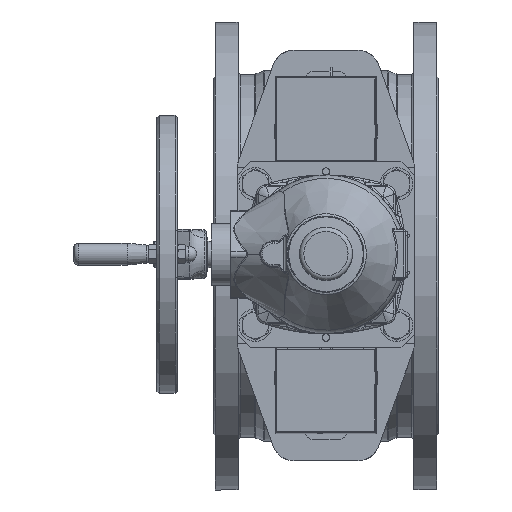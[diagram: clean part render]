
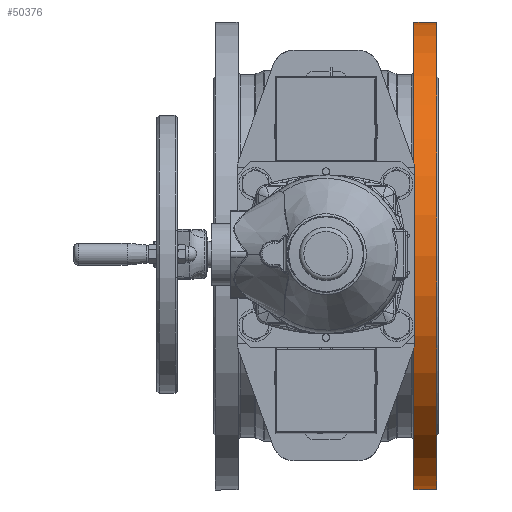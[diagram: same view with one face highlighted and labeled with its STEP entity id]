
A CAD part, top view. The second image highlights one B-rep face of the part: STEP entity #50376.
In plain terms, the highlighted cylindrical face has radius 265 mm (diameter 530 mm), a full revolution.
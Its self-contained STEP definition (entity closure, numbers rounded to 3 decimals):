
#3720=CYLINDRICAL_SURFACE('',#53899,265.);
#4870=FACE_OUTER_BOUND('',#7908,.T.);
#7908=EDGE_LOOP('',(#34884,#34885,#34886,#34887,#34888,#34889));
#11210=LINE('',#79071,#14555);
#14555=VECTOR('',#60659,265.);
#17776=CIRCLE('',#53263,265.);
#17777=CIRCLE('',#53264,265.);
#17786=CIRCLE('',#53276,265.);
#17787=CIRCLE('',#53277,265.);
#20672=VERTEX_POINT('',#73291);
#20673=VERTEX_POINT('',#73292);
#20688=VERTEX_POINT('',#73326);
#20689=VERTEX_POINT('',#73327);
#25568=EDGE_CURVE('',#20672,#20673,#17776,.T.);
#25569=EDGE_CURVE('',#20673,#20672,#17777,.T.);
#25584=EDGE_CURVE('',#20688,#20689,#17786,.T.);
#25585=EDGE_CURVE('',#20689,#20688,#17787,.T.);
#26385=EDGE_CURVE('',#20673,#20689,#11210,.T.);
#34884=ORIENTED_EDGE('',*,*,#25568,.T.);
#34885=ORIENTED_EDGE('',*,*,#26385,.T.);
#34886=ORIENTED_EDGE('',*,*,#25584,.F.);
#34887=ORIENTED_EDGE('',*,*,#25585,.F.);
#34888=ORIENTED_EDGE('',*,*,#26385,.F.);
#34889=ORIENTED_EDGE('',*,*,#25569,.T.);
#50376=ADVANCED_FACE('',(#4870),#3720,.T.);
#53263=AXIS2_PLACEMENT_3D('',#73293,#59123,#59124);
#53264=AXIS2_PLACEMENT_3D('',#73294,#59125,#59126);
#53276=AXIS2_PLACEMENT_3D('',#73328,#59155,#59156);
#53277=AXIS2_PLACEMENT_3D('',#73329,#59157,#59158);
#53899=AXIS2_PLACEMENT_3D('',#79070,#60657,#60658);
#59123=DIRECTION('center_axis',(1.,0.,0.));
#59124=DIRECTION('ref_axis',(0.,-1.,0.));
#59125=DIRECTION('center_axis',(1.,0.,0.));
#59126=DIRECTION('ref_axis',(0.,-1.,0.));
#59155=DIRECTION('center_axis',(1.,0.,0.));
#59156=DIRECTION('ref_axis',(0.,-1.,0.));
#59157=DIRECTION('center_axis',(1.,0.,0.));
#59158=DIRECTION('ref_axis',(0.,-1.,0.));
#60657=DIRECTION('center_axis',(1.,0.,0.));
#60658=DIRECTION('ref_axis',(0.,0.,
1.));
#60659=DIRECTION('',(1.,0.,0.));
#73291=CARTESIAN_POINT('',(99.5,0.,265.));
#73292=CARTESIAN_POINT('',(99.5,0.,-265.));
#73293=CARTESIAN_POINT('Origin',(99.5,0.,
0.));
#73294=CARTESIAN_POINT('Origin',(99.5,0.,
0.));
#73326=CARTESIAN_POINT('',(125.5,0.,265.));
#73327=CARTESIAN_POINT('',(125.5,0.,-265.));
#73328=CARTESIAN_POINT('Origin',(125.5,0.,0.));
#73329=CARTESIAN_POINT('Origin',(125.5,0.,0.));
#79070=CARTESIAN_POINT('Origin',(112.5,0.,0.));
#79071=CARTESIAN_POINT('',(112.5,0.,-265.));
